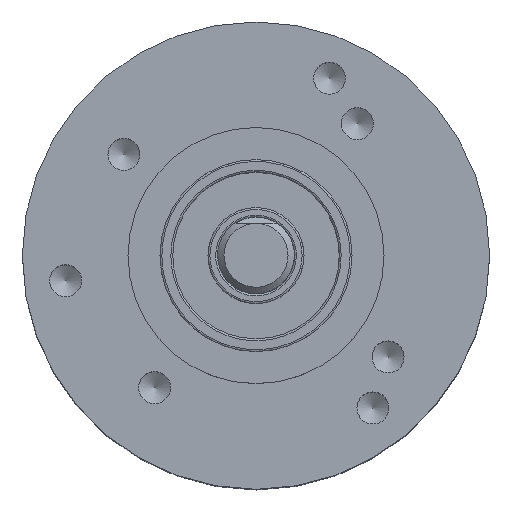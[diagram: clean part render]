
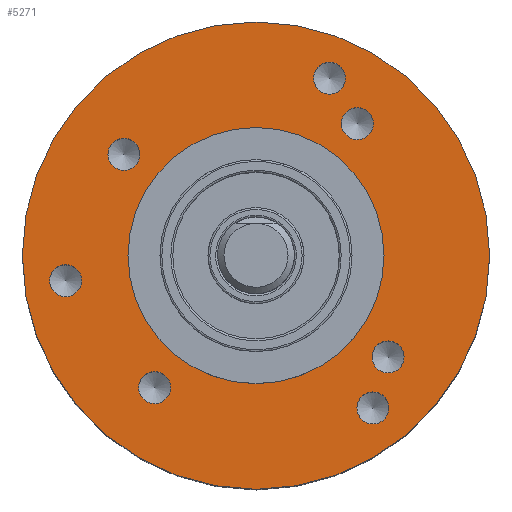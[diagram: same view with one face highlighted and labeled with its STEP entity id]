
A CAD part, top view. The second image highlights one B-rep face of the part: STEP entity #5271.
In plain terms, the highlighted planar face has unit normal (0, 0, 1).
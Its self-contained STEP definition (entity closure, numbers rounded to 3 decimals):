
#54 = ORIENTED_EDGE ( 'NONE', *, *, #3506, .F. ) ;
#99 = ORIENTED_EDGE ( 'NONE', *, *, #523, .F. ) ;
#123 = ORIENTED_EDGE ( 'NONE', *, *, #526, .F. ) ;
#171 = ORIENTED_EDGE ( 'NONE', *, *, #3440, .F. ) ;
#250 = ORIENTED_EDGE ( 'NONE', *, *, #3472, .F. ) ;
#283 = ORIENTED_EDGE ( 'NONE', *, *, #544, .F. ) ;
#357 = ORIENTED_EDGE ( 'NONE', *, *, #522, .F. ) ;
#389 = ORIENTED_EDGE ( 'NONE', *, *, #507, .F. ) ;
#394 = ORIENTED_EDGE ( 'NONE', *, *, #510, .F. ) ;
#507 = EDGE_CURVE ( 'NONE', #718, #718, #1724, .T. ) ;
#510 = EDGE_CURVE ( 'NONE', #721, #721, #1604, .T. ) ;
#522 = EDGE_CURVE ( 'NONE', #657, #657, #1597, .T. ) ;
#523 = EDGE_CURVE ( 'NONE', #751, #751, #1493, .T. ) ;
#526 = EDGE_CURVE ( 'NONE', #765, #765, #1492, .T. ) ;
#544 = EDGE_CURVE ( 'NONE', #825, #825, #1513, .T. ) ;
#657 = VERTEX_POINT ( 'NONE', #4199 ) ;
#704 = VERTEX_POINT ( 'NONE', #4160 ) ;
#718 = VERTEX_POINT ( 'NONE', #4206 ) ;
#721 = VERTEX_POINT ( 'NONE', #4204 ) ;
#737 = VERTEX_POINT ( 'NONE', #4157 ) ;
#751 = VERTEX_POINT ( 'NONE', #4198 ) ;
#765 = VERTEX_POINT ( 'NONE', #4196 ) ;
#770 = VERTEX_POINT ( 'NONE', #5905 ) ;
#825 = VERTEX_POINT ( 'NONE', #4189 ) ;
#1064 = CIRCLE ( 'NONE', #3142, 1.25 ) ;
#1177 = CIRCLE ( 'NONE', #3161, 1.25 ) ;
#1342 = FACE_BOUND ( 'NONE', #1419, .T. ) ;
#1349 = FACE_OUTER_BOUND ( 'NONE', #1401, .T. ) ;
#1384 = FACE_BOUND ( 'NONE', #1743, .T. ) ;
#1386 = FACE_BOUND ( 'NONE', #1451, .T. ) ;
#1391 = EDGE_LOOP ( 'NONE', ( #283 ) ) ;
#1401 = EDGE_LOOP ( 'NONE', ( #123 ) ) ;
#1419 = EDGE_LOOP ( 'NONE', ( #394 ) ) ;
#1420 = EDGE_LOOP ( 'NONE', ( #171 ) ) ;
#1442 = EDGE_LOOP ( 'NONE', ( #250 ) ) ;
#1450 = EDGE_LOOP ( 'NONE', ( #99 ) ) ;
#1451 = EDGE_LOOP ( 'NONE', ( #54 ) ) ;
#1467 = EDGE_LOOP ( 'NONE', ( #389 ) ) ;
#1489 = CIRCLE ( 'NONE', #3174, 10. ) ;
#1492 = CIRCLE ( 'NONE', #3228, 18.25 ) ;
#1493 = CIRCLE ( 'NONE', #3226, 1.25 ) ;
#1513 = CIRCLE ( 'NONE', #3214, 1.25 ) ;
#1597 = CIRCLE ( 'NONE', #3232, 1.25 ) ;
#1604 = CIRCLE ( 'NONE', #3537, 1.25 ) ;
#1724 = CIRCLE ( 'NONE', #3569, 1.25 ) ;
#1743 = EDGE_LOOP ( 'NONE', ( #357 ) ) ;
#1751 = FACE_BOUND ( 'NONE', #1420, .T. ) ;
#1768 = FACE_BOUND ( 'NONE', #1467, .T. ) ;
#1771 = FACE_BOUND ( 'NONE', #1442, .T. ) ;
#1772 = FACE_BOUND ( 'NONE', #1450, .T. ) ;
#1773 = FACE_BOUND ( 'NONE', #1391, .T. ) ;
#2535 = DIRECTION ( 'NONE',  ( 0., 0., 1. ) ) ;
#2594 = DIRECTION ( 'NONE',  ( 1., 0., 0. ) ) ;
#2816 = DIRECTION ( 'NONE',  ( 1., 0., 0. ) ) ;
#2817 = DIRECTION ( 'NONE',  ( 0., 0., 1. ) ) ;
#2818 = CARTESIAN_POINT ( 'NONE',  ( -13.257, 26.479, -22.125 ) ) ;
#2870 = CARTESIAN_POINT ( 'NONE',  ( -29.084, 5.852, -22.125 ) ) ;
#2872 = DIRECTION ( 'NONE',  ( 1., 0., 0. ) ) ;
#2873 = DIRECTION ( 'NONE',  ( 0., 0., -1. ) ) ;
#2874 = CARTESIAN_POINT ( 'NONE',  ( -21.171, 16.165, -22.125 ) ) ;
#2883 = DIRECTION ( 'NONE',  ( 1., 0., 0. ) ) ;
#2884 = DIRECTION ( 'NONE',  ( 0., 0., 1. ) ) ;
#2885 = CARTESIAN_POINT ( 'NONE',  ( -36.042, 14.207, -22.125 ) ) ;
#2886 = DIRECTION ( 'NONE',  ( 1., 0., 0. ) ) ;
#2887 = DIRECTION ( 'NONE',  ( 0., 0., 1. ) ) ;
#2888 = CARTESIAN_POINT ( 'NONE',  ( -10.857, 8.251, -22.125 ) ) ;
#2963 = DIRECTION ( 'NONE',  ( 1., 0., 0. ) ) ;
#2965 = DIRECTION ( 'NONE',  ( 0., 0., 1. ) ) ;
#2993 = CARTESIAN_POINT ( 'NONE',  ( -12.039, 4.265, -22.125 ) ) ;
#3142 = AXIS2_PLACEMENT_3D ( 'NONE', #4064, #4063, #4062 ) ;
#3161 = AXIS2_PLACEMENT_3D ( 'NONE', #4569, #4535, #4550 ) ;
#3174 = AXIS2_PLACEMENT_3D ( 'NONE', #4579, #4578, #4577 ) ;
#3214 = AXIS2_PLACEMENT_3D ( 'NONE', #2818, #2817, #2816 ) ;
#3226 = AXIS2_PLACEMENT_3D ( 'NONE', #2885, #2884, #2883 ) ;
#3228 = AXIS2_PLACEMENT_3D ( 'NONE', #2874, #2873, #2872 ) ;
#3232 = AXIS2_PLACEMENT_3D ( 'NONE', #2888, #2887, #2886 ) ;
#3302 = AXIS2_PLACEMENT_3D ( 'NONE', #5534, #5536, #5531 ) ;
#3440 = EDGE_CURVE ( 'NONE', #704, #704, #1489, .T. ) ;
#3472 = EDGE_CURVE ( 'NONE', #737, #737, #1177, .T. ) ;
#3506 = EDGE_CURVE ( 'NONE', #770, #770, #1064, .T. ) ;
#3537 = AXIS2_PLACEMENT_3D ( 'NONE', #2870, #2535, #2594 ) ;
#3569 = AXIS2_PLACEMENT_3D ( 'NONE', #2993, #2965, #2963 ) ;
#4062 = DIRECTION ( 'NONE',  ( 1., 0., 0. ) ) ;
#4063 = DIRECTION ( 'NONE',  ( 0., 0., 1. ) ) ;
#4064 = CARTESIAN_POINT ( 'NONE',  ( -31.484, 24.079, -22.125 ) ) ;
#4157 = CARTESIAN_POINT ( 'NONE',  ( -14.18, 30.024, -22.125 ) ) ;
#4160 = CARTESIAN_POINT ( 'NONE',  ( -11.171, 16.165, -22.125 ) ) ;
#4189 = CARTESIAN_POINT ( 'NONE',  ( -12.007, 26.479, -22.125 ) ) ;
#4196 = CARTESIAN_POINT ( 'NONE',  ( -2.921, 16.165, -22.125 ) ) ;
#4198 = CARTESIAN_POINT ( 'NONE',  ( -34.792, 14.207, -22.125 ) ) ;
#4199 = CARTESIAN_POINT ( 'NONE',  ( -9.607, 8.251, -22.125 ) ) ;
#4204 = CARTESIAN_POINT ( 'NONE',  ( -27.834, 5.852, -22.125 ) ) ;
#4206 = CARTESIAN_POINT ( 'NONE',  ( -10.789, 4.265, -22.125 ) ) ;
#4535 = DIRECTION ( 'NONE',  ( 0., 0., 1. ) ) ;
#4550 = DIRECTION ( 'NONE',  ( 1., 0., 0. ) ) ;
#4569 = CARTESIAN_POINT ( 'NONE',  ( -15.43, 30.024, -22.125 ) ) ;
#4577 = DIRECTION ( 'NONE',  ( 1., 0., 0. ) ) ;
#4578 = DIRECTION ( 'NONE',  ( 0., 0., 1. ) ) ;
#4579 = CARTESIAN_POINT ( 'NONE',  ( -21.171, 16.165, -22.125 ) ) ;
#5271 = ADVANCED_FACE ( 'NONE', ( #1349, #1751, #1384, #1342, #1773, #1386, #1768, #1772, #1771 ), #5532, .F. ) ;
#5531 = DIRECTION ( 'NONE',  ( -1., 0., 0. ) ) ;
#5532 = PLANE ( 'NONE',  #3302 ) ;
#5534 = CARTESIAN_POINT ( 'NONE',  ( -21.171, 26.165, -22.125 ) ) ;
#5536 = DIRECTION ( 'NONE',  ( 0., 0., -1. ) ) ;
#5905 = CARTESIAN_POINT ( 'NONE',  ( -30.234, 24.079, -22.125 ) ) ;
